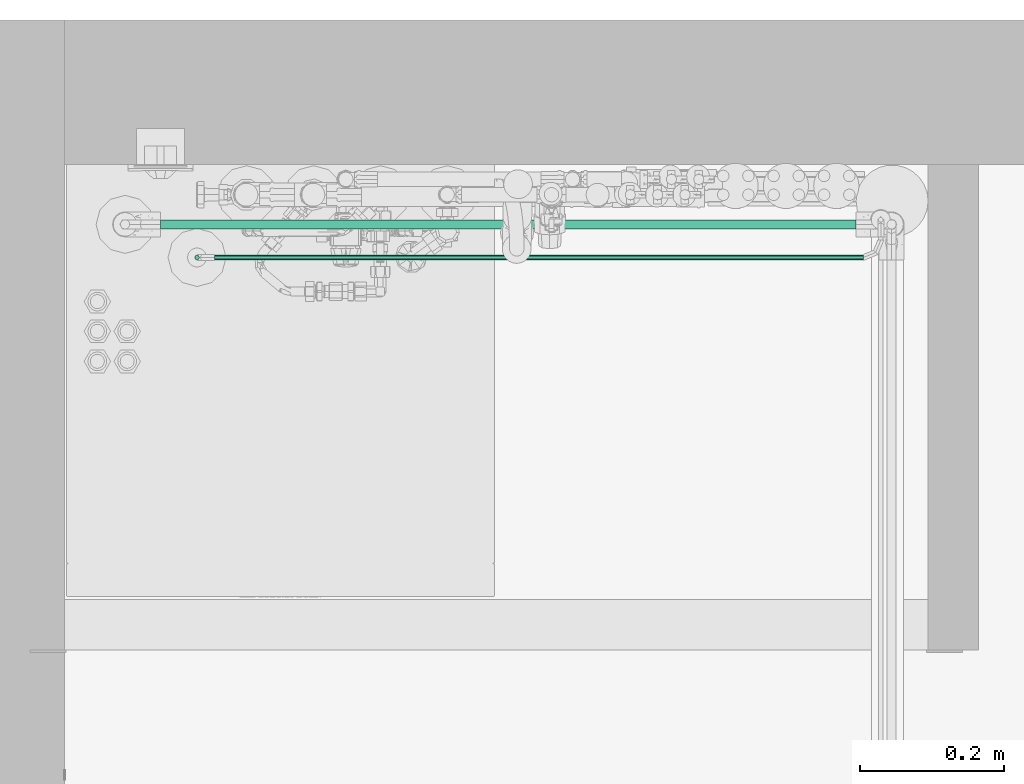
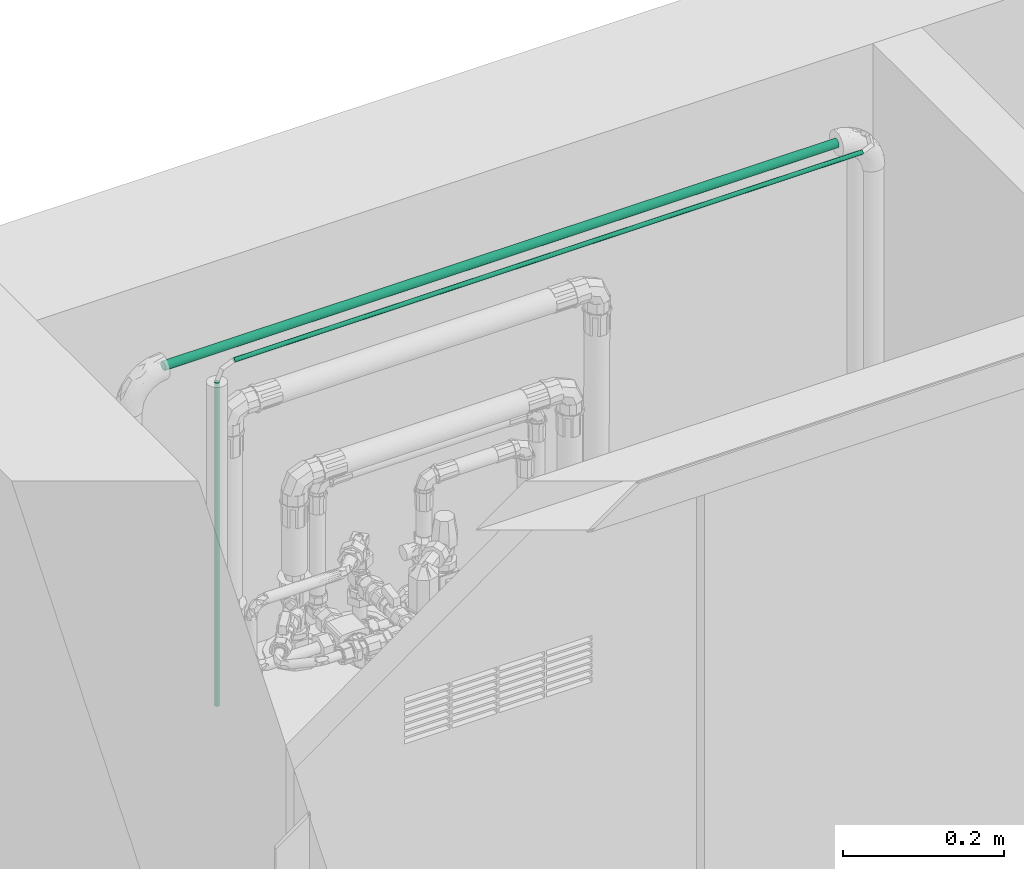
# One storey, part 21 of 32: 3 flow segments.
"""IFC2X3 building model written with IfcOpenShell, lengths in metres."""

from ifc_helpers import new_model, entity, si_unit, converted_unit, derived_unit, direction, frame, frame_2d, origin, origin_2d_with_axis, place, context, subcontext, project, spatial, circle, extrude, type_object, element, save


model = new_model("IFC2X3")

# Units and contexts
model_context = context("Model", 3, precision=1e-05, world=origin(), true_north=direction((6.123031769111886e-17, 1.0)))
body_context = subcontext(model_context, "Body", "Model", "MODEL_VIEW")
ifc_project = project(units=[si_unit("LENGTHUNIT", "METRE"), si_unit("AREAUNIT", "SQUARE_METRE"), si_unit("VOLUMEUNIT", "CUBIC_METRE"), converted_unit("PLANEANGLEUNIT", "DEGREE", entity("IfcPlaneAngleMeasure", 0.017453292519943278), si_unit("PLANEANGLEUNIT", "RADIAN"), dimensions=[0, 0, 0, 0, 0, 0, 0]), si_unit("MASSUNIT", "GRAM", prefix="KILO"), derived_unit("MASSDENSITYUNIT", [(si_unit("MASSUNIT", "GRAM", prefix="KILO"), 1), (si_unit("LENGTHUNIT", "METRE"), -3)]), derived_unit("IONCONCENTRATIONUNIT", [(si_unit("MASSUNIT", "GRAM", prefix="KILO"), 1), (si_unit("LENGTHUNIT", "METRE"), -3)]), derived_unit("MOMENTOFINERTIAUNIT", [(si_unit("LENGTHUNIT", "METRE"), 4)]), si_unit("TIMEUNIT", "SECOND"), si_unit("FREQUENCYUNIT", "HERTZ"), si_unit("THERMODYNAMICTEMPERATUREUNIT", "DEGREE_CELSIUS"), derived_unit("THERMALTRANSMITTANCEUNIT", [(si_unit("MASSUNIT", "GRAM", prefix="KILO"), 1), (si_unit("THERMODYNAMICTEMPERATUREUNIT", "KELVIN"), -1), (si_unit("TIMEUNIT", "SECOND"), -3)]), derived_unit("THERMALCONDUCTANCEUNIT", [(si_unit("MASSUNIT", "GRAM", prefix="KILO"), 1), (si_unit("THERMODYNAMICTEMPERATUREUNIT", "KELVIN"), -1), (si_unit("TIMEUNIT", "SECOND"), -3), (si_unit("LENGTHUNIT", "METRE"), 1)]), derived_unit("VOLUMETRICFLOWRATEUNIT", [(si_unit("LENGTHUNIT", "METRE", prefix="DECI"), 3), (si_unit("TIMEUNIT", "SECOND"), -1)]), derived_unit("MASSFLOWRATEUNIT", [(si_unit("MASSUNIT", "GRAM", prefix="KILO"), 1), (si_unit("TIMEUNIT", "SECOND"), -1)]), derived_unit("ROTATIONALFREQUENCYUNIT", [(si_unit("TIMEUNIT", "SECOND"), -1)]), si_unit("ELECTRICCURRENTUNIT", "AMPERE"), si_unit("ELECTRICVOLTAGEUNIT", "VOLT"), si_unit("POWERUNIT", "WATT"), si_unit("FORCEUNIT", "NEWTON", prefix="KILO"), si_unit("ILLUMINANCEUNIT", "LUX"), si_unit("LUMINOUSFLUXUNIT", "LUMEN"), si_unit("LUMINOUSINTENSITYUNIT", "CANDELA"), si_unit("ENERGYUNIT", "JOULE"), derived_unit("USERDEFINED", [(si_unit("MASSUNIT", "GRAM", prefix="KILO"), -1), (si_unit("LENGTHUNIT", "METRE"), -2), (si_unit("TIMEUNIT", "SECOND"), 3), (si_unit("LUMINOUSFLUXUNIT", "LUMEN"), 1)]), derived_unit("USERDEFINED", [(si_unit("MASSUNIT", "GRAM", prefix="KILO"), 1), (si_unit("TIMEUNIT", "SECOND"), -3), (si_unit("LENGTHUNIT", "METRE"), 3), (si_unit("ELECTRICCURRENTUNIT", "AMPERE"), -2)]), derived_unit("SOUNDPOWERUNIT", [(si_unit("MASSUNIT", "GRAM", prefix="KILO"), 1), (si_unit("TIMEUNIT", "SECOND"), -3), (si_unit("LENGTHUNIT", "METRE"), 2)]), derived_unit("SOUNDPRESSUREUNIT", [(si_unit("MASSUNIT", "GRAM", prefix="KILO"), 1), (si_unit("LENGTHUNIT", "METRE"), -1), (si_unit("TIMEUNIT", "SECOND"), -2)]), derived_unit("LINEARVELOCITYUNIT", [(si_unit("LENGTHUNIT", "METRE"), 1), (si_unit("TIMEUNIT", "SECOND"), -1)]), si_unit("PRESSUREUNIT", "PASCAL"), derived_unit("USERDEFINED", [(si_unit("MASSUNIT", "GRAM", prefix="KILO"), 1), (si_unit("LENGTHUNIT", "METRE"), -2), (si_unit("TIMEUNIT", "SECOND"), -2)]), derived_unit("LINEARFORCEUNIT", [(si_unit("MASSUNIT", "GRAM", prefix="KILO"), 1), (si_unit("TIMEUNIT", "SECOND"), -2)]), derived_unit("PLANARFORCEUNIT", [(si_unit("MASSUNIT", "GRAM", prefix="KILO"), 1), (si_unit("LENGTHUNIT", "METRE"), -1), (si_unit("TIMEUNIT", "SECOND"), -2)]), derived_unit("SPECIFICHEATCAPACITYUNIT", [(si_unit("THERMODYNAMICTEMPERATUREUNIT", "KELVIN"), -1), (si_unit("LENGTHUNIT", "METRE"), 2), (si_unit("TIMEUNIT", "SECOND"), -2)]), derived_unit("HEATFLUXDENSITYUNIT", [(si_unit("MASSUNIT", "GRAM", prefix="KILO"), 1), (si_unit("TIMEUNIT", "SECOND"), -3)]), derived_unit("HEATINGVALUEUNIT", [(si_unit("LENGTHUNIT", "METRE"), 2), (si_unit("TIMEUNIT", "SECOND"), -2)]), derived_unit("VAPORPERMEABILITYUNIT", [(si_unit("LENGTHUNIT", "METRE"), -1), (si_unit("TIMEUNIT", "SECOND"), 1)]), derived_unit("DYNAMICVISCOSITYUNIT", [(si_unit("MASSUNIT", "GRAM", prefix="KILO"), 1), (si_unit("TIMEUNIT", "SECOND"), -1), (si_unit("LENGTHUNIT", "METRE"), -1)]), derived_unit("THERMALEXPANSIONCOEFFICIENTUNIT", [(si_unit("THERMODYNAMICTEMPERATUREUNIT", "KELVIN"), -1)]), derived_unit("MODULUSOFELASTICITYUNIT", [(si_unit("MASSUNIT", "GRAM", prefix="KILO"), 1), (si_unit("LENGTHUNIT", "METRE"), -1), (si_unit("TIMEUNIT", "SECOND"), -2)]), derived_unit("ISOTHERMALMOISTURECAPACITYUNIT", [(si_unit("MASSUNIT", "GRAM", prefix="KILO"), -1), (si_unit("LENGTHUNIT", "METRE"), 3)]), derived_unit("MOISTUREDIFFUSIVITYUNIT", [(si_unit("TIMEUNIT", "SECOND"), -1), (si_unit("LENGTHUNIT", "METRE"), 2)]), derived_unit("MASSPERLENGTHUNIT", [(si_unit("MASSUNIT", "GRAM", prefix="KILO"), 1), (si_unit("LENGTHUNIT", "METRE"), -1)]), derived_unit("THERMALRESISTANCEUNIT", [(si_unit("MASSUNIT", "GRAM", prefix="KILO"), -1), (si_unit("TIMEUNIT", "SECOND"), 3), (si_unit("THERMODYNAMICTEMPERATUREUNIT", "KELVIN"), 1)]), derived_unit("ACCELERATIONUNIT", [(si_unit("LENGTHUNIT", "METRE"), 1), (si_unit("TIMEUNIT", "SECOND"), -2)]), derived_unit("ANGULARVELOCITYUNIT", [(si_unit("TIMEUNIT", "SECOND"), -1), (si_unit("PLANEANGLEUNIT", "RADIAN"), 1)]), derived_unit("LINEARSTIFFNESSUNIT", [(si_unit("MASSUNIT", "GRAM", prefix="KILO"), 1), (si_unit("TIMEUNIT", "SECOND"), -2)]), derived_unit("WARPINGCONSTANTUNIT", [(si_unit("LENGTHUNIT", "METRE"), 6)]), derived_unit("LINEARMOMENTUNIT", [(si_unit("MASSUNIT", "GRAM", prefix="KILO"), 1), (si_unit("LENGTHUNIT", "METRE"), 1), (si_unit("TIMEUNIT", "SECOND"), -2)]), derived_unit("TORQUEUNIT", [(si_unit("MASSUNIT", "GRAM", prefix="KILO"), 1), (si_unit("LENGTHUNIT", "METRE"), 2), (si_unit("TIMEUNIT", "SECOND"), -2)])], contexts=[model_context])

# Site, building, storey
site_placement = place(None, origin())
site = spatial("IfcSite", under=ifc_project, at=site_placement, Name="Default", CompositionType="ELEMENT")
building_placement = place(site_placement, origin())
building = spatial("IfcBuilding", under=site, at=building_placement, CompositionType="ELEMENT")
storey_placement = place(building_placement, origin())
storey = spatial("IfcBuildingStorey", under=building, at=storey_placement, Name="Niveau 0", CompositionType="ELEMENT", Elevation=-1.949160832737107e-14)

# Flow segments
pipe_segment_type = type_object("IfcPipeSegmentType", Name="Canalisation:Cuivre Frigo", PredefinedType="NOTDEFINED")
flow_segment_1_placement = place(storey_placement, origin())
element("IfcFlowSegment", 1, at=flow_segment_1_placement, inside=storey, type_object=pipe_segment_type, Name="Canalisation:Cuivre Frigo", ObjectType="Canalisation:Cuivre Frigo", context=body_context, shape_type="SweptSolid", body=[
    extrude(circle(Radius=0.0032, at=frame_2d((0.0, -5.414335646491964e-16), x_axis=(1.0, 0.0))), frame((-14.525301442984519, 2.7395264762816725, 1.9300000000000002), z_axis=(0.0, 0.0, 1.0), x_axis=(-1.0, 0.0, 0.0)), (0.0, 0.0, 1.0), 0.49090000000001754),
])
flow_segment_2_placement = place(storey_placement, origin())
element("IfcFlowSegment", 2, at=flow_segment_2_placement, inside=storey, type_object=pipe_segment_type, Name="Canalisation:Cuivre Frigo", ObjectType="Canalisation:Cuivre Frigo", context=body_context, shape_type="SweptSolid", body=[
    extrude(circle(Radius=0.0032, at=origin_2d_with_axis()), frame((-14.501201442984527, 2.739526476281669, 2.4450000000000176), z_axis=(1.0, 0.0, 0.0), x_axis=(0.0, -1.0, 0.0)), (0.0, 0.0, 1.0), 0.9018000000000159),
])
flow_segment_3_placement = place(storey_placement, origin())
element("IfcFlowSegment", 3, at=flow_segment_3_placement, inside=storey, type_object=pipe_segment_type, Name="Canalisation:Cuivre Frigo", ObjectType="Canalisation:Cuivre Frigo", context=body_context, shape_type="SweptSolid", body=[
    extrude(circle(Radius=0.00635, at=origin_2d_with_axis()), frame((-14.576001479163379, 2.7855264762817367, 2.434437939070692), z_axis=(1.0, 0.0, 0.0), x_axis=(0.0, -1.0, 0.0)), (0.0, 0.0, 1.0), 0.966400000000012),
])

save(model, "model.ifc")
